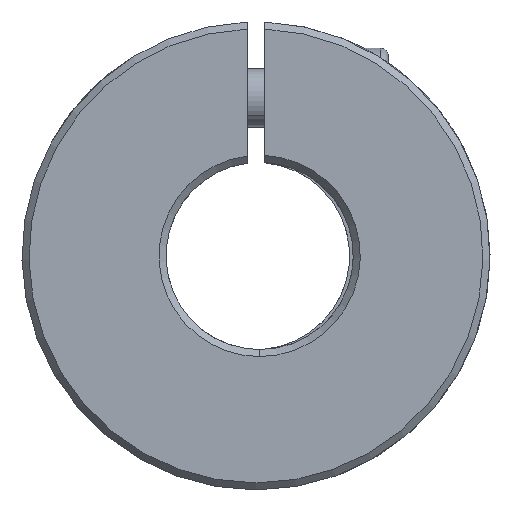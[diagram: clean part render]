
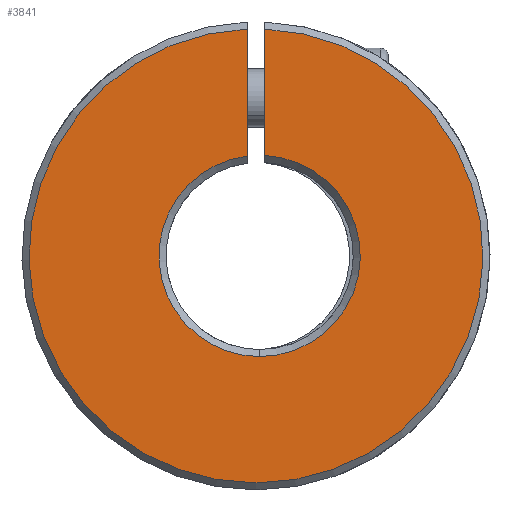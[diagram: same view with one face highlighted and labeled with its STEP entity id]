
A CAD part, front view. The second image highlights one B-rep face of the part: STEP entity #3841.
In plain terms, the highlighted planar face has unit normal (0, -1, 0).
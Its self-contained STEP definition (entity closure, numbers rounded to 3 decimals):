
#7 = VERTEX_POINT ( 'NONE', #2606 ) ;
#73 = ORIENTED_EDGE ( 'NONE', *, *, #4238, .T. ) ;
#329 = CARTESIAN_POINT ( 'NONE',  ( 0., -30., 0. ) ) ;
#334 = AXIS2_PLACEMENT_3D ( 'NONE', #2661, #4835, #1277 ) ;
#365 = EDGE_CURVE ( 'NONE', #3687, #3659, #1878, .T. ) ;
#419 = CARTESIAN_POINT ( 'NONE',  ( 0.314, -30., 0. ) ) ;
#626 = CIRCLE ( 'NONE', #2155, 8.6 ) ;
#654 = LINE ( 'NONE', #2463, #810 ) ;
#810 = VECTOR ( 'NONE', #5648, 1000. ) ;
#1067 = VERTEX_POINT ( 'NONE', #2486 ) ;
#1095 = AXIS2_PLACEMENT_3D ( 'NONE', #329, #3434, #5332 ) ;
#1189 = EDGE_LOOP ( 'NONE', ( #3417, #4037, #2770, #73, #4198 ) ) ;
#1277 = DIRECTION ( 'NONE',  ( 0., 0., 1. ) ) ;
#1602 = DIRECTION ( 'NONE',  ( 0., 0., 1. ) ) ;
#1839 = EDGE_CURVE ( 'NONE', #7, #1067, #4578, .T. ) ;
#1878 = CIRCLE ( 'NONE', #334, 8.6 ) ;
#2142 = LINE ( 'NONE', #5728, #5544 ) ;
#2155 = AXIS2_PLACEMENT_3D ( 'NONE', #419, #2307, #4491 ) ;
#2307 = DIRECTION ( 'NONE',  ( 0., 1., 0. ) ) ;
#2463 = CARTESIAN_POINT ( 'NONE',  ( -0.75, -30., -4. ) ) ;
#2486 = CARTESIAN_POINT ( 'NONE',  ( 0.75, -30., 19.385 ) ) ;
#2606 = CARTESIAN_POINT ( 'NONE',  ( -0.75, -30., 19.385 ) ) ;
#2661 = CARTESIAN_POINT ( 'NONE',  ( 0.314, -30., 0. ) ) ;
#2664 = VERTEX_POINT ( 'NONE', #4756 ) ;
#2770 = ORIENTED_EDGE ( 'NONE', *, *, #365, .T. ) ;
#3008 = PLANE ( 'NONE',  #4311 ) ;
#3417 = ORIENTED_EDGE ( 'NONE', *, *, #5837, .T. ) ;
#3434 = DIRECTION ( 'NONE',  ( 0., -1., 0. ) ) ;
#3469 = EDGE_CURVE ( 'NONE', #2664, #3687, #626, .T. ) ;
#3659 = VERTEX_POINT ( 'NONE', #4635 ) ;
#3687 = VERTEX_POINT ( 'NONE', #5462 ) ;
#3822 = DIRECTION ( 'NONE',  ( 0., 1., 0. ) ) ;
#3841 = ADVANCED_FACE ( 'NONE', ( #4282 ), #3008, .F. ) ;
#4037 = ORIENTED_EDGE ( 'NONE', *, *, #3469, .T. ) ;
#4198 = ORIENTED_EDGE ( 'NONE', *, *, #1839, .T. ) ;
#4238 = EDGE_CURVE ( 'NONE', #3659, #7, #654, .T. ) ;
#4282 = FACE_OUTER_BOUND ( 'NONE', #1189, .T. ) ;
#4311 = AXIS2_PLACEMENT_3D ( 'NONE', #5626, #3822, #1602 ) ;
#4491 = DIRECTION ( 'NONE',  ( 0., 0., 1. ) ) ;
#4506 = DIRECTION ( 'NONE',  ( 0., 0., -1. ) ) ;
#4578 = CIRCLE ( 'NONE', #1095, 19.4 ) ;
#4635 = CARTESIAN_POINT ( 'NONE',  ( -0.75, -30., 8.534 ) ) ;
#4756 = CARTESIAN_POINT ( 'NONE',  ( 0.75, -30., 8.589 ) ) ;
#4835 = DIRECTION ( 'NONE',  ( 0., 1., 0. ) ) ;
#5332 = DIRECTION ( 'NONE',  ( 0., 0., 1. ) ) ;
#5462 = CARTESIAN_POINT ( 'NONE',  ( 0.314, -30., -8.6 ) ) ;
#5544 = VECTOR ( 'NONE', #4506, 1000. ) ;
#5626 = CARTESIAN_POINT ( 'NONE',  ( 0., -30., 0. ) ) ;
#5648 = DIRECTION ( 'NONE',  ( 0., 0., 1. ) ) ;
#5728 = CARTESIAN_POINT ( 'NONE',  ( 0.75, -30., -4. ) ) ;
#5837 = EDGE_CURVE ( 'NONE', #1067, #2664, #2142, .T. ) ;
